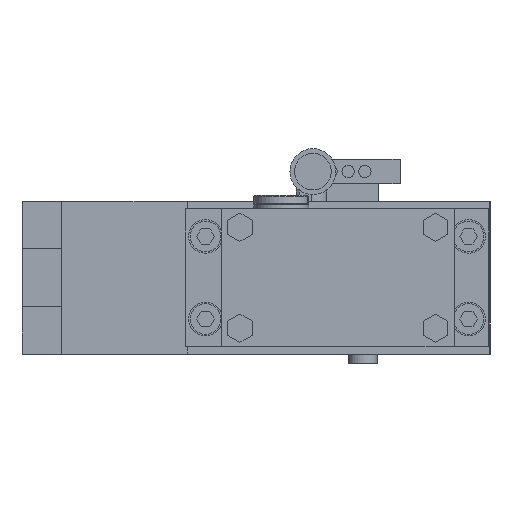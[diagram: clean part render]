
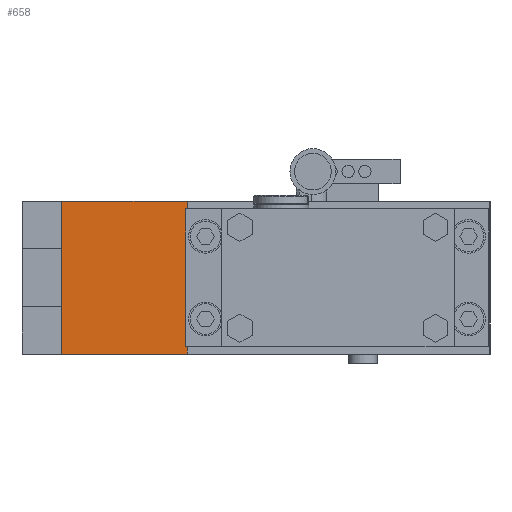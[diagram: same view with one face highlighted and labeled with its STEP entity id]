
A CAD part, front view. The second image highlights one B-rep face of the part: STEP entity #658.
In plain terms, the highlighted planar face has unit normal (0, -1, 0).
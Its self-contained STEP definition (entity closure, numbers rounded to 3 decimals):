
#367 = CARTESIAN_POINT ( 'NONE',  ( -19., -73.5, 25. ) ) ;
#658 = ADVANCED_FACE ( 'NONE', ( #4440 ), #16235, .F. ) ;
#759 = EDGE_CURVE ( 'NONE', #1666, #4427, #17134, .T. ) ;
#1666 = VERTEX_POINT ( 'NONE', #5985 ) ;
#1923 = EDGE_CURVE ( 'NONE', #6785, #12208, #7134, .T. ) ;
#2862 = VECTOR ( 'NONE', #17202, 1000. ) ;
#3132 = LINE ( 'NONE', #10387, #13911 ) ;
#4427 = VERTEX_POINT ( 'NONE', #367 ) ;
#4440 = FACE_OUTER_BOUND ( 'NONE', #9667, .T. ) ;
#5107 = CARTESIAN_POINT ( 'NONE',  ( -60., -73.5, -25. ) ) ;
#5216 = ORIENTED_EDGE ( 'NONE', *, *, #7821, .F. ) ;
#5236 = CARTESIAN_POINT ( 'NONE',  ( -60., -73.5, 25. ) ) ;
#5283 = DIRECTION ( 'NONE',  ( 1., 0., 0. ) ) ;
#5561 = ORIENTED_EDGE ( 'NONE', *, *, #1923, .T. ) ;
#5985 = CARTESIAN_POINT ( 'NONE',  ( -60., -73.5, 25. ) ) ;
#6478 = CARTESIAN_POINT ( 'NONE',  ( -60., -73.5, 25. ) ) ;
#6785 = VERTEX_POINT ( 'NONE', #9210 ) ;
#6892 = VECTOR ( 'NONE', #5283, 1000. ) ;
#7134 = LINE ( 'NONE', #5107, #10844 ) ;
#7821 = EDGE_CURVE ( 'NONE', #4427, #12208, #9461, .T. ) ;
#8830 = CARTESIAN_POINT ( 'NONE',  ( -19., -73.5, 25. ) ) ;
#9210 = CARTESIAN_POINT ( 'NONE',  ( -60., -73.5, -25. ) ) ;
#9273 = DIRECTION ( 'NONE',  ( 0., 0., 1. ) ) ;
#9461 = LINE ( 'NONE', #8830, #2862 ) ;
#9667 = EDGE_LOOP ( 'NONE', ( #15772, #5561, #5216, #9691 ) ) ;
#9691 = ORIENTED_EDGE ( 'NONE', *, *, #759, .F. ) ;
#9980 = EDGE_CURVE ( 'NONE', #1666, #6785, #3132, .T. ) ;
#10387 = CARTESIAN_POINT ( 'NONE',  ( -60., -73.5, 25. ) ) ;
#10844 = VECTOR ( 'NONE', #13521, 1000. ) ;
#12208 = VERTEX_POINT ( 'NONE', #15339 ) ;
#13521 = DIRECTION ( 'NONE',  ( 1., 0., 0. ) ) ;
#13911 = VECTOR ( 'NONE', #17337, 1000. ) ;
#15339 = CARTESIAN_POINT ( 'NONE',  ( -19., -73.5, -25. ) ) ;
#15772 = ORIENTED_EDGE ( 'NONE', *, *, #9980, .T. ) ;
#16235 = PLANE ( 'NONE',  #16250 ) ;
#16250 = AXIS2_PLACEMENT_3D ( 'NONE', #6478, #17636, #9273 ) ;
#17134 = LINE ( 'NONE', #5236, #6892 ) ;
#17202 = DIRECTION ( 'NONE',  ( 0., 0., -1. ) ) ;
#17337 = DIRECTION ( 'NONE',  ( 0., 0., -1. ) ) ;
#17636 = DIRECTION ( 'NONE',  ( 0., 1., 0. ) ) ;
